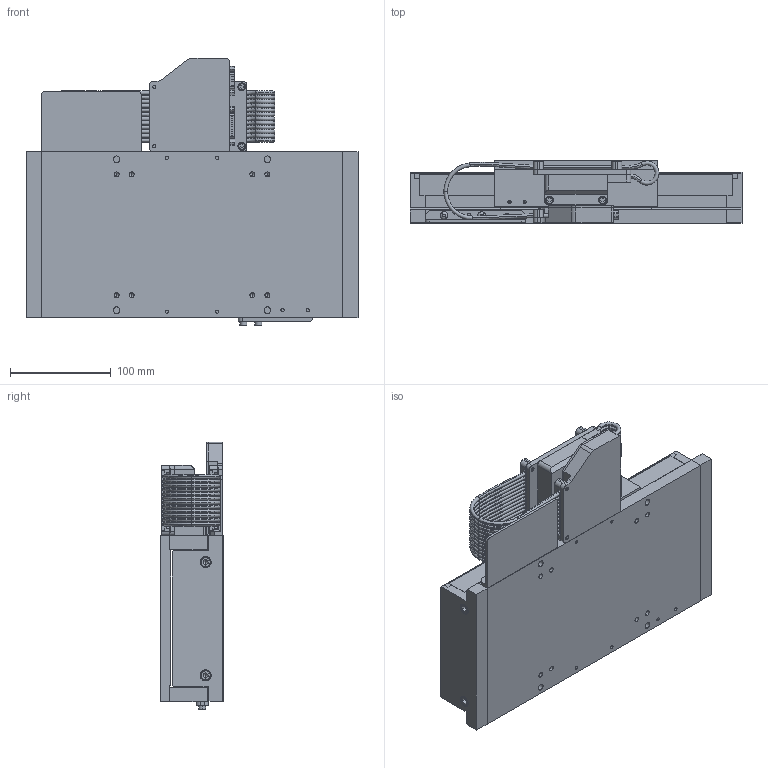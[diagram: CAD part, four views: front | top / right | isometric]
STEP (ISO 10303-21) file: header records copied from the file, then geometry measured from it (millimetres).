
FILE_DESCRIPTION (( 'STEP AP214' ), '1' );
FILE_NAME ('LM3-100-LM-EXPORT.STEP', '2024-05-06T20:22:44', ( 'lab' ), ( '' ), 'SwSTEP 2.0', 'SolidWorks 2018', '' );
FILE_SCHEMA (( 'AUTOMOTIVE_DESIGN' ));
Length unit declared in the file: millimetre
Products named in the file (19): 1000018_file_export29; 1000008_file_export4; 1000006_file_export37; 1000007_file_export16; 1000017_file_export31; LM3-100-LM-EXPORT; 1000009_file_export18; 1000015_file_export30; 1000013_file_export14; 1000002_file_export38; 1000012_file_export17; 1000011_file_export13; 1000014_file_export19; 1000003_file_export36; 1000001_file_export34; 1000016_file_export33; 1000005_file_export27; 1000004_file_export35; 1000010_file_export2
Assembly tree (39 placements, depth 2):
  LM3-100-LM-EXPORT
    1000007_file_export16  x4
    1000008_file_export4
    1000009_file_export18
    1000010_file_export2
    1000011_file_export13  x8
    1000012_file_export17
    1000013_file_export14  x2
    1000014_file_export19
    1000015_file_export30  x6
    1000016_file_export33  x3
    1000017_file_export31  x2
    1000018_file_export29
    1000003_file_export36  x2
    1000005_file_export27  x2
    1000004_file_export35
    1000002_file_export38
    1000001_file_export34
    1000006_file_export37
Bounding box: 330 x 62 x 266 mm (x, y, z)
Volume: 3138014.9 mm3; surface area: 491223.6 mm2
Topology: 95 solids, 95 shells, 2983 faces, 6833 edges, 4122 vertices
Faces by surface type: plane 1112, cylinder 816, bspline 448, cone 324, torus 283
Entity records: 109567 total; most frequent: CARTESIAN_POINT 47103, DIRECTION 11709, ORIENTED_EDGE 11242, EDGE_CURVE 5621, AXIS2_PLACEMENT_3D 4623, VERTEX_POINT 3451, EDGE_LOOP 2764, CIRCLE 2570
